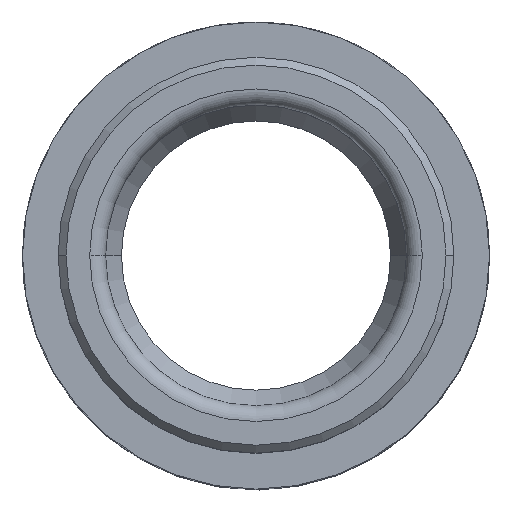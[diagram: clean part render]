
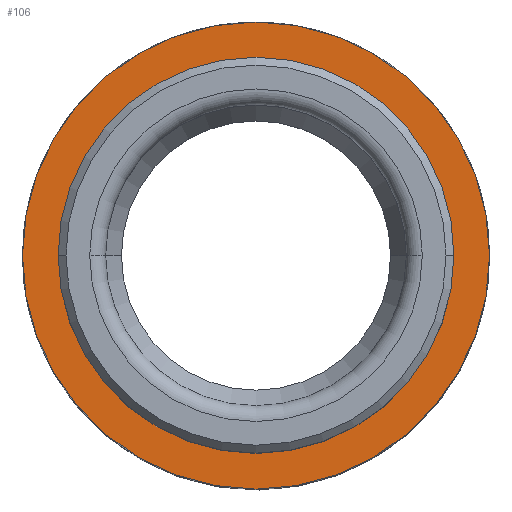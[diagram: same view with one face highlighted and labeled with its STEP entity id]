
A CAD part, top view. The second image highlights one B-rep face of the part: STEP entity #106.
In plain terms, the highlighted planar face has unit normal (0, 0, 1).
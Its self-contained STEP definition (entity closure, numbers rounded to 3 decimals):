
#37 = ORIENTED_EDGE ( 'NONE', *, *, #1020, .F. ) ;
#66 = EDGE_CURVE ( 'NONE', #986, #984, #2533, .T. ) ;
#97 = EDGE_LOOP ( 'NONE', ( #115, #37 ) ) ;
#103 = ORIENTED_EDGE ( 'NONE', *, *, #1018, .T. ) ;
#106 = ADVANCED_FACE ( 'NONE', ( #2552, #2591 ), #2603, .F. ) ;
#110 = EDGE_LOOP ( 'NONE', ( #103, #112 ) ) ;
#112 = ORIENTED_EDGE ( 'NONE', *, *, #588, .T. ) ;
#115 = ORIENTED_EDGE ( 'NONE', *, *, #66, .F. ) ;
#588 = EDGE_CURVE ( 'NONE', #1105, #1039, #3727, .T. ) ;
#984 = VERTEX_POINT ( 'NONE', #4455 ) ;
#986 = VERTEX_POINT ( 'NONE', #4458 ) ;
#1018 = EDGE_CURVE ( 'NONE', #1039, #1105, #4546, .T. ) ;
#1020 = EDGE_CURVE ( 'NONE', #984, #986, #4607, .T. ) ;
#1039 = VERTEX_POINT ( 'NONE', #4631 ) ;
#1105 = VERTEX_POINT ( 'NONE', #4764 ) ;
#2533 = CIRCLE ( 'NONE', #2568, 14.75 ) ;
#2552 = FACE_BOUND ( 'NONE', #110, .T. ) ;
#2566 = DIRECTION ( 'NONE',  ( -1., 0., 0. ) ) ;
#2567 = DIRECTION ( 'NONE',  ( 0., 0., -1. ) ) ;
#2568 = AXIS2_PLACEMENT_3D ( 'NONE', #2573, #2567, #2566 ) ;
#2573 = CARTESIAN_POINT ( 'NONE',  ( 0., 0., 0. ) ) ;
#2581 = CARTESIAN_POINT ( 'NONE',  ( 0., 0., 0. ) ) ;
#2591 = FACE_OUTER_BOUND ( 'NONE', #97, .T. ) ;
#2603 = PLANE ( 'NONE',  #2634 ) ;
#2625 = DIRECTION ( 'NONE',  ( -1., 0., 0. ) ) ;
#2626 = DIRECTION ( 'NONE',  ( 0., 0., -1. ) ) ;
#2634 = AXIS2_PLACEMENT_3D ( 'NONE', #2581, #2626, #2625 ) ;
#3720 = DIRECTION ( 'NONE',  ( -1., 0., 0. ) ) ;
#3721 = DIRECTION ( 'NONE',  ( 0., 0., -1. ) ) ;
#3722 = CARTESIAN_POINT ( 'NONE',  ( 0., 0., 0. ) ) ;
#3723 = AXIS2_PLACEMENT_3D ( 'NONE', #3722, #3721, #3720 ) ;
#3727 = CIRCLE ( 'NONE', #3723, 11.65 ) ;
#4455 = CARTESIAN_POINT ( 'NONE',  ( -14.75, 0., 0. ) ) ;
#4458 = CARTESIAN_POINT ( 'NONE',  ( 14.75, 0., 0. ) ) ;
#4546 = CIRCLE ( 'NONE', #4556, 11.65 ) ;
#4547 = CARTESIAN_POINT ( 'NONE',  ( 0., 0., 0. ) ) ;
#4549 = DIRECTION ( 'NONE',  ( -1., 0., 0. ) ) ;
#4550 = DIRECTION ( 'NONE',  ( 0., 0., -1. ) ) ;
#4556 = AXIS2_PLACEMENT_3D ( 'NONE', #4547, #4550, #4549 ) ;
#4596 = DIRECTION ( 'NONE',  ( -1., 0., 0. ) ) ;
#4598 = DIRECTION ( 'NONE',  ( 0., 0., -1. ) ) ;
#4599 = CARTESIAN_POINT ( 'NONE',  ( 0., 0., 0. ) ) ;
#4601 = AXIS2_PLACEMENT_3D ( 'NONE', #4599, #4598, #4596 ) ;
#4607 = CIRCLE ( 'NONE', #4601, 14.75 ) ;
#4631 = CARTESIAN_POINT ( 'NONE',  ( -11.65, 0., 0. ) ) ;
#4764 = CARTESIAN_POINT ( 'NONE',  ( 11.65, 0., 0. ) ) ;
